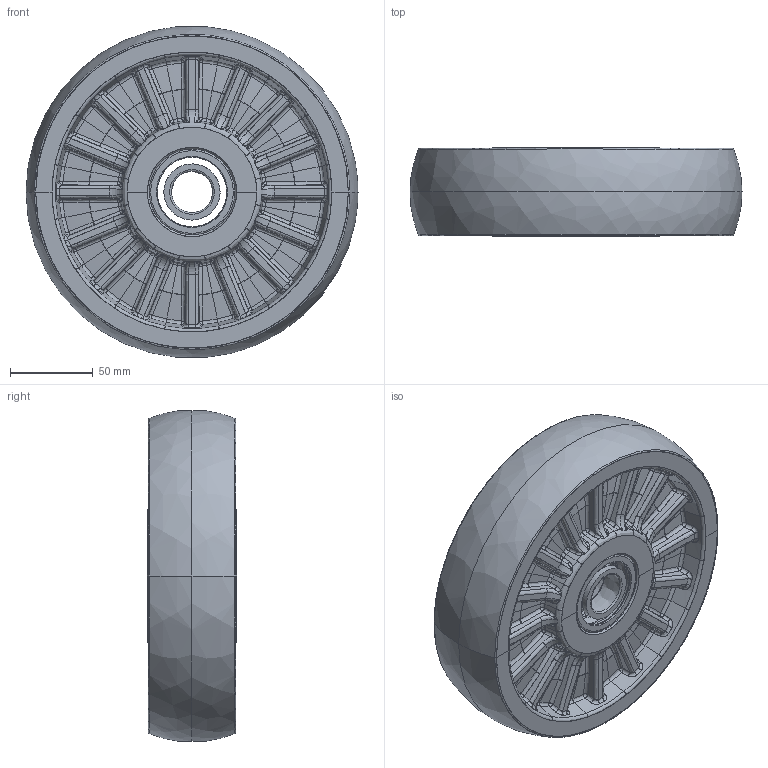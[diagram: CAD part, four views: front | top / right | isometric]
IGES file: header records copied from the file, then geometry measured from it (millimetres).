
Start section: JAMA-IS VERSION  1.0
Global section: file name: C:\CAM-TOOL data\ToolsFile\INOAC車輪\1月\HE-200W\HE-200W-ALL.igs; native system: CAM-TOOL; preprocessor: C3out Version 11.1.1.50212 (2015/02/12); author: NONE; organization: NONE; date: 240125.174736; units: millimetre
Bounding box: 201 x 54 x 200.4 mm (x, y, z)
Surface area: 139957 mm2 (no closed solid volume)
Topology: 0 solids, 0 shells, 1496 faces, 11785 edges, 12398 vertices
Faces by surface type: bspline 1496
